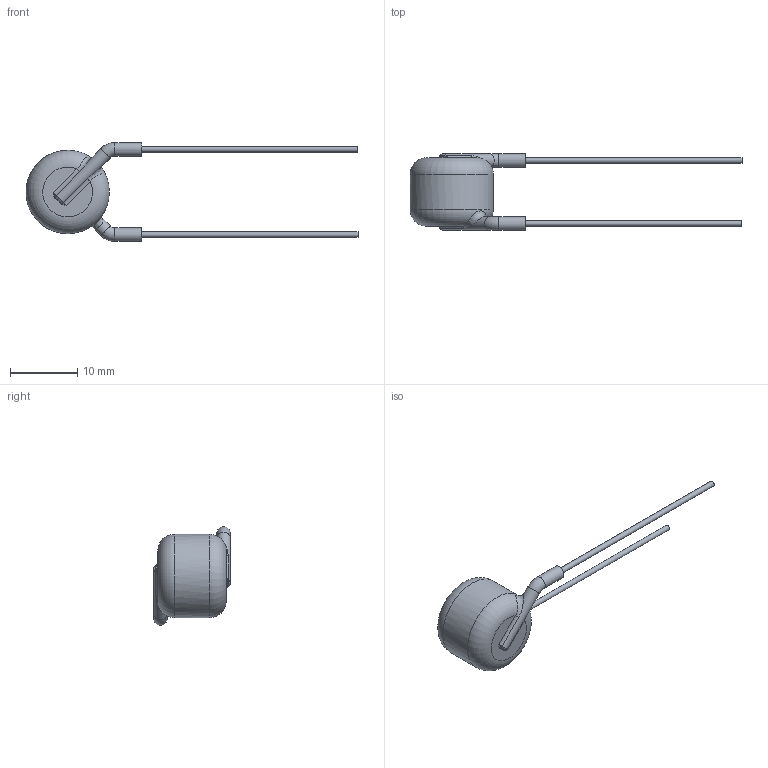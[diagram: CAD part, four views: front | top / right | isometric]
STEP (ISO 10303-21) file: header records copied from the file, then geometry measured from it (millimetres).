
FILE_DESCRIPTION((''),'2;1');
FILE_NAME('I:\Marketing\M6t1\3D-Models\Zchng-Werk-3\Upload for homepage\Ceramite\Y5R-15kV\615R150GAST10\615R150GAST10.stp','2015-08-28T12:00:16',(''),(''),'Autodesk Inventor 2013','Autodesk Inventor 2013','');
FILE_SCHEMA(('AUTOMOTIVE_DESIGN { 1 0 10303 214 1 1 1 1 }'));
Length unit declared in the file: centimetre
Products named in the file (1): 615R150GAST10
Bounding box: 49.4 x 11.4 x 14.7 mm (x, y, z)
Volume: 1236.9 mm3; surface area: 822.5 mm2
Topology: 1 solids, 1 shells, 41 faces, 91 edges, 50 vertices
Faces by surface type: cylinder 13, bspline 10, torus 10, plane 8
Full cylindrical faces by diameter (mm): 0.81 x2, 2 x4, 12.4 x1
Entity records: 1451 total; most frequent: CARTESIAN_POINT 618, DIRECTION 152, ORIENTED_EDGE 140, AXIS2_PLACEMENT_3D 70, EDGE_CURVE 70, EDGE_LOOP 54, VERTEX_POINT 44, STYLED_ITEM 42
